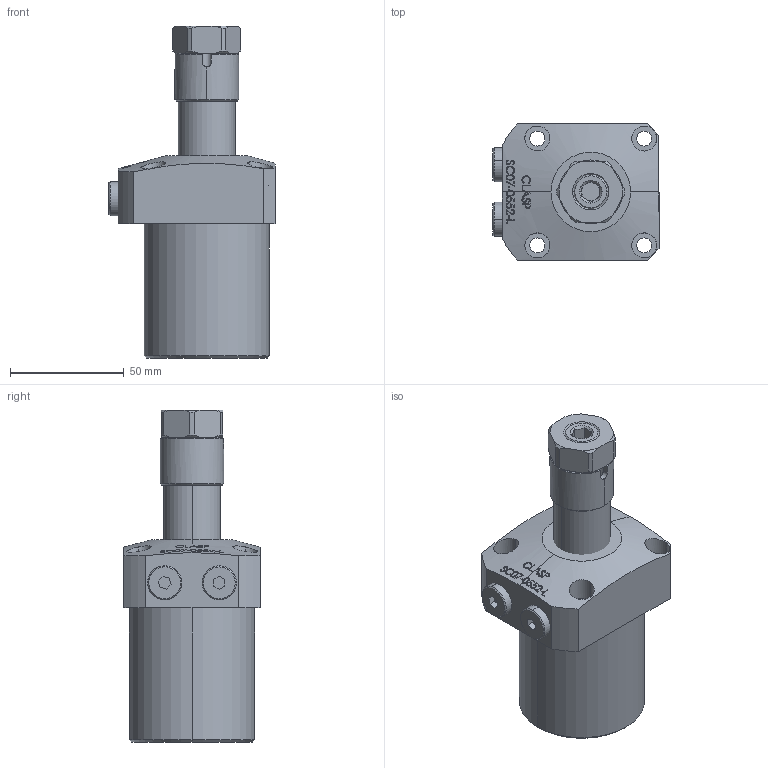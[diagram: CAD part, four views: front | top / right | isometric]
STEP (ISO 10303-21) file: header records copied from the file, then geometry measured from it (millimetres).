
FILE_DESCRIPTION (( 'STEP AP203' ), '1' );
FILE_NAME ('SC07-0552-L.STEP', '2022-07-05T17:52:23', ( '' ), ( '' ), 'SwSTEP 2.0', 'SolidWorks 2017', '' );
FILE_SCHEMA (( 'CONFIG_CONTROL_DESIGN' ));
Length unit declared in the file: millimetre
Products named in the file (6): SC-07-0552-L-05 plug; SC-07-0552-L-04 sleeve; SC-07-0552-L-03-nut; SC07-0552-L; SC-07-0552-L BODY; SC-07-0552-L-Piston
Assembly tree (6 placements, depth 2):
  SC07-0552-L
    SC-07-0552-L BODY
    SC-07-0552-L-Piston
    SC-07-0552-L-05 plug  x2
    SC-07-0552-L-04 sleeve
    SC-07-0552-L-03-nut
Bounding box: 73 x 60 x 146 mm (x, y, z)
Volume: 289203 mm3; surface area: 43452.7 mm2
Topology: 6 solids, 6 shells, 362 faces, 911 edges, 597 vertices
Faces by surface type: plane 156, bspline 94, cylinder 62, cone 48, sphere 2
Entity records: 16653 total; most frequent: CARTESIAN_POINT 8378, ORIENTED_EDGE 1758, DIRECTION 1234, EDGE_CURVE 879, VERTEX_POINT 577, AXIS2_PLACEMENT_3D 420, VECTOR 394, EDGE_LOOP 394
